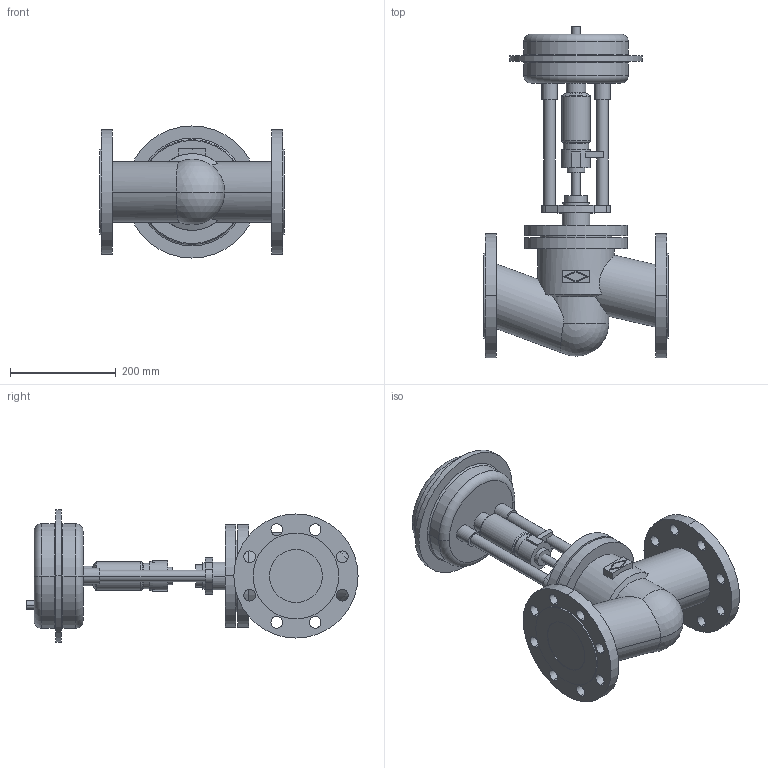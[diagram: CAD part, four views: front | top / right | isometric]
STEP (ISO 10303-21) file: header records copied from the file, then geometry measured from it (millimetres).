
FILE_DESCRIPTION(('OneSpaceDesigner STEP Export'),'2;1');
FILE_NAME('c000001409.stp','2005-02-14T14:05:32',(''),(''),'OneSpace Designer STEP processor (Jan. 2003) for AP203(Solid Model)','OneSpace Designer 12.01D 09-Jul-2004 (C) CoCreate Software GmbH','');
FILE_SCHEMA(('CONFIG_CONTROL_DESIGN'));
Length unit declared in the file: millimetre
Products named in the file (2): 1; 2
Bounding box: 350 x 628.5 x 250 mm (x, y, z)
Volume: 11426777.4 mm3; surface area: 676403.1 mm2
Topology: 2 solids, 2 shells, 185 faces, 442 edges, 286 vertices
Faces by surface type: cylinder 96, plane 65, torus 16, cone 6, sphere 2
Entity records: 5137 total; most frequent: CARTESIAN_POINT 1056, ORIENTED_EDGE 880, DIRECTION 711, EDGE_CURVE 440, VERTEX_POINT 286, AXIS2_PLACEMENT_3D 262, EDGE_LOOP 244, VECTOR 187
